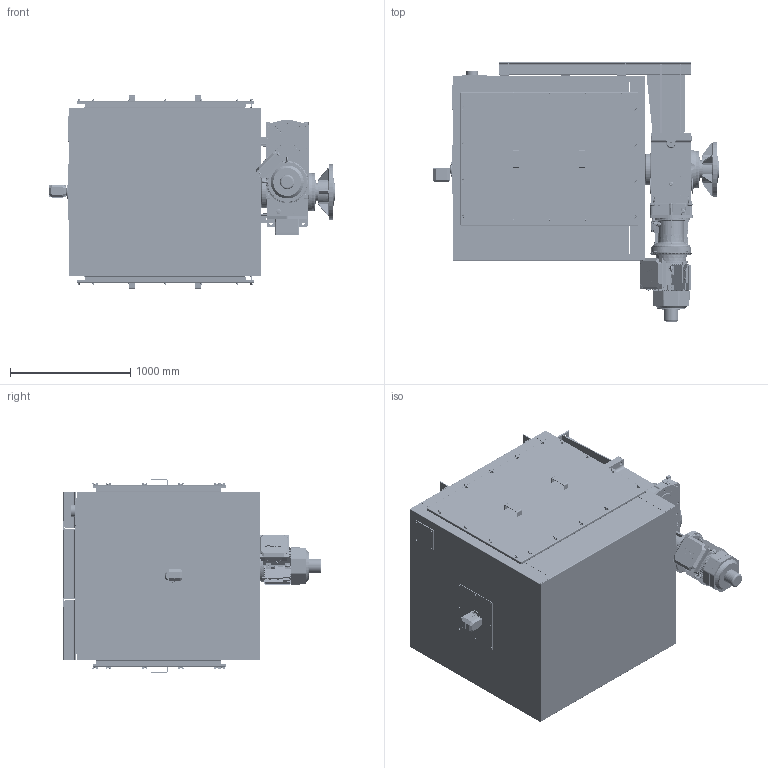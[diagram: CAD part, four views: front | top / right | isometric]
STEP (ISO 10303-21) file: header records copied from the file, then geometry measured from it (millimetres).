
FILE_DESCRIPTION(/* description */ (''),/* implementation_level */ '2;1');
FILE_NAME(/* name */ 'K:\NEMANJA\CABLE REEL\CABLE REEL DA\0700-6\07006005 DA-CRVD\STEP\75965.stp',/* time_stamp */ '2017-03-16T13:56:22+01:00',/* author */ ('zeldjo01'),/* organization */ ('Hillmar Industries Ltd.'),/* preprocessor_version */ 'ST-DEVELOPER v16.1',/* originating_system */ 'Autodesk Inventor 2016',/* authorisation */ '');
FILE_SCHEMA (('AUTOMOTIVE_DESIGN { 1 0 10303 214 3 1 1 }'));
Products named in the file (1): 75965
Bounding box: 2386.13 x 2154.59 x 1606.6 mm (x, y, z)
Volume: 176934210.3 mm3; surface area: 45597166.7 mm2
Topology: 5 solids, 5 shells, 6469 faces, 17152 edges, 11034 vertices
Faces by surface type: plane 3297, cylinder 1699, cone 616, bspline 603, torus 227, sphere 27
Full cylindrical faces by diameter (mm): 7 x4, 8 x2, 8.376 x46, 8.731 x1, 9 x7, 9.188 x2, 10 x29, 10.106 x87, 11 x12, 12 x11, 12.5 x6, 13 x61, 13.5 x16, 13.835 x4, 14 x20, 14.5 x8, 15.4 x2, 16 x1, 18 x2, 18.256 x3, 18.38 x4, 19 x4, 20 x25, 20.5 x4, 21.336 x1, 22 x20, 22.225 x1, 22.3 x4, 23.376 x1, 23.812 x2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
Entity records: 218226 total; most frequent: CARTESIAN_POINT 60027, ORIENTED_EDGE 31694, DIRECTION 30047, EDGE_CURVE 15837, AXIS2_PLACEMENT_3D 10720, VERTEX_POINT 10540, LINE 8607, VECTOR 8607
